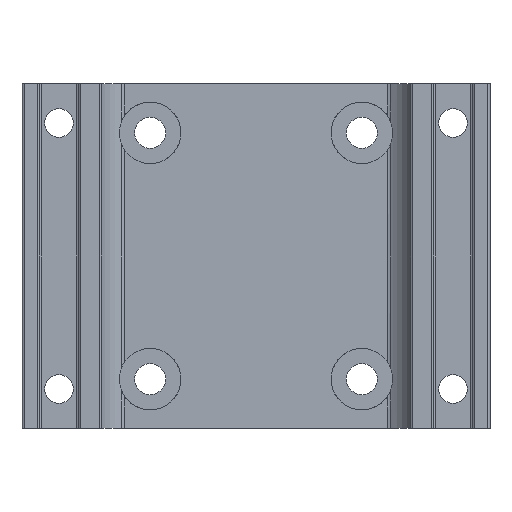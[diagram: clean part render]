
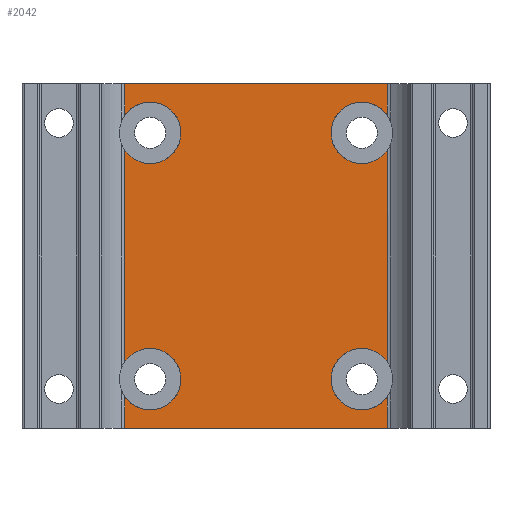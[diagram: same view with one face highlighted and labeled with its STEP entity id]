
A CAD part, front view. The second image highlights one B-rep face of the part: STEP entity #2042.
In plain terms, the highlighted planar face has unit normal (0, -1, 0).
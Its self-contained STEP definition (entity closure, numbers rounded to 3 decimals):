
#29 = VERTEX_POINT ( 'NONE', #1522 ) ;
#33 = ORIENTED_EDGE ( 'NONE', *, *, #1991, .T. ) ;
#43 = ORIENTED_EDGE ( 'NONE', *, *, #1650, .T. ) ;
#109 = DIRECTION ( 'NONE',  ( 0., 0., -1. ) ) ;
#278 = EDGE_CURVE ( 'NONE', #1222, #2292, #1214, .T. ) ;
#287 = VERTEX_POINT ( 'NONE', #1260 ) ;
#294 = LINE ( 'NONE', #2158, #1605 ) ;
#309 = CARTESIAN_POINT ( 'NONE',  ( -26.621, 4.7, -70. ) ) ;
#314 = CARTESIAN_POINT ( 'NONE',  ( 26.621, 4.7, -56.416 ) ) ;
#319 = VERTEX_POINT ( 'NONE', #1559 ) ;
#342 = VECTOR ( 'NONE', #1232, 1000. ) ;
#347 = EDGE_CURVE ( 'NONE', #2291, #2031, #1504, .T. ) ;
#411 = ORIENTED_EDGE ( 'NONE', *, *, #2293, .T. ) ;
#461 = DIRECTION ( 'NONE',  ( 1., 0., 0. ) ) ;
#500 = CIRCLE ( 'NONE', #2224, 6.25 ) ;
#506 = VECTOR ( 'NONE', #809, 1000. ) ;
#524 = CARTESIAN_POINT ( 'NONE',  ( -26.621, 4.7, 0. ) ) ;
#540 = DIRECTION ( 'NONE',  ( 0., 1., 0. ) ) ;
#545 = AXIS2_PLACEMENT_3D ( 'NONE', #640, #2058, #851 ) ;
#558 = EDGE_CURVE ( 'NONE', #1374, #1065, #1120, .T. ) ;
#559 = DIRECTION ( 'NONE',  ( 0., 1., 0. ) ) ;
#588 = DIRECTION ( 'NONE',  ( 1., 0., 0. ) ) ;
#618 = CARTESIAN_POINT ( 'NONE',  ( -26.621, 4.7, -70. ) ) ;
#620 = EDGE_CURVE ( 'NONE', #287, #694, #864, .T. ) ;
#640 = CARTESIAN_POINT ( 'NONE',  ( -21.5, 4.7, -60. ) ) ;
#644 = FACE_OUTER_BOUND ( 'NONE', #1446, .T. ) ;
#660 = CARTESIAN_POINT ( 'NONE',  ( 21.5, 4.7, -10. ) ) ;
#665 = ORIENTED_EDGE ( 'NONE', *, *, #1853, .T. ) ;
#694 = VERTEX_POINT ( 'NONE', #2301 ) ;
#704 = ORIENTED_EDGE ( 'NONE', *, *, #620, .T. ) ;
#716 = EDGE_CURVE ( 'NONE', #2191, #1216, #1211, .T. ) ;
#793 = EDGE_CURVE ( 'NONE', #1345, #1602, #2635, .T. ) ;
#795 = CARTESIAN_POINT ( 'NONE',  ( -21.5, 4.7, -60. ) ) ;
#806 = AXIS2_PLACEMENT_3D ( 'NONE', #1136, #2342, #928 ) ;
#809 = DIRECTION ( 'NONE',  ( 0., 0., 1. ) ) ;
#812 = CARTESIAN_POINT ( 'NONE',  ( -26.621, 4.7, -70. ) ) ;
#840 = EDGE_CURVE ( 'NONE', #694, #319, #1500, .T. ) ;
#851 = DIRECTION ( 'NONE',  ( 1., 0., 0. ) ) ;
#864 = CIRCLE ( 'NONE', #545, 6.25 ) ;
#880 = AXIS2_PLACEMENT_3D ( 'NONE', #1769, #540, #1964 ) ;
#881 = EDGE_CURVE ( 'NONE', #29, #2191, #1905, .T. ) ;
#882 = CARTESIAN_POINT ( 'NONE',  ( 27., 4.7, -70. ) ) ;
#886 = CARTESIAN_POINT ( 'NONE',  ( -26.621, 4.7, -13.584 ) ) ;
#928 = DIRECTION ( 'NONE',  ( 1., 0., 0. ) ) ;
#943 = PLANE ( 'NONE',  #1458 ) ;
#980 = CARTESIAN_POINT ( 'NONE',  ( 15.25, 4.7, -10. ) ) ;
#989 = ORIENTED_EDGE ( 'NONE', *, *, #793, .F. ) ;
#1029 = VERTEX_POINT ( 'NONE', #2376 ) ;
#1052 = CARTESIAN_POINT ( 'NONE',  ( 27., 4.7, 0. ) ) ;
#1065 = VERTEX_POINT ( 'NONE', #2369 ) ;
#1095 = VECTOR ( 'NONE', #2436, 1000. ) ;
#1097 = CIRCLE ( 'NONE', #1510, 6.25 ) ;
#1120 = LINE ( 'NONE', #2033, #506 ) ;
#1129 = ORIENTED_EDGE ( 'NONE', *, *, #278, .T. ) ;
#1136 = CARTESIAN_POINT ( 'NONE',  ( -21.5, 4.7, -10. ) ) ;
#1142 = DIRECTION ( 'NONE',  ( 0., -1., 0. ) ) ;
#1148 = DIRECTION ( 'NONE',  ( 1., 0., 0. ) ) ;
#1211 = CIRCLE ( 'NONE', #1911, 6.25 ) ;
#1212 = DIRECTION ( 'NONE',  ( 0., 1., 0. ) ) ;
#1214 = LINE ( 'NONE', #309, #2096 ) ;
#1216 = VERTEX_POINT ( 'NONE', #2303 ) ;
#1222 = VERTEX_POINT ( 'NONE', #886 ) ;
#1232 = DIRECTION ( 'NONE',  ( 0., 0., -1. ) ) ;
#1260 = CARTESIAN_POINT ( 'NONE',  ( -15.25, 4.7, -60. ) ) ;
#1272 = ORIENTED_EDGE ( 'NONE', *, *, #2170, .T. ) ;
#1295 = EDGE_CURVE ( 'NONE', #1029, #1662, #2088, .T. ) ;
#1345 = VERTEX_POINT ( 'NONE', #524 ) ;
#1355 = DIRECTION ( 'NONE',  ( 0., 1., 0. ) ) ;
#1374 = VERTEX_POINT ( 'NONE', #1929 ) ;
#1379 = VECTOR ( 'NONE', #2295, 1000. ) ;
#1446 = EDGE_LOOP ( 'NONE', ( #2608, #1272, #1726, #33, #1903, #2360, #1948, #989, #411, #2040, #665, #1129, #43, #704, #1749, #2189 ) ) ;
#1458 = AXIS2_PLACEMENT_3D ( 'NONE', #1936, #1142, #2563 ) ;
#1459 = AXIS2_PLACEMENT_3D ( 'NONE', #2630, #1212, #2427 ) ;
#1500 = LINE ( 'NONE', #618, #342 ) ;
#1504 = CIRCLE ( 'NONE', #880, 6.25 ) ;
#1510 = AXIS2_PLACEMENT_3D ( 'NONE', #2567, #1355, #1148 ) ;
#1522 = CARTESIAN_POINT ( 'NONE',  ( 26.621, 4.7, -13.584 ) ) ;
#1559 = CARTESIAN_POINT ( 'NONE',  ( -26.621, 4.7, -70. ) ) ;
#1602 = VERTEX_POINT ( 'NONE', #2049 ) ;
#1605 = VECTOR ( 'NONE', #2374, 1000. ) ;
#1633 = LINE ( 'NONE', #812, #1095 ) ;
#1650 = EDGE_CURVE ( 'NONE', #2292, #287, #500, .T. ) ;
#1662 = VERTEX_POINT ( 'NONE', #2201 ) ;
#1714 = CARTESIAN_POINT ( 'NONE',  ( 26.621, 4.7, 0. ) ) ;
#1726 = ORIENTED_EDGE ( 'NONE', *, *, #347, .T. ) ;
#1728 = DIRECTION ( 'NONE',  ( 0., 0., 1. ) ) ;
#1749 = ORIENTED_EDGE ( 'NONE', *, *, #840, .T. ) ;
#1769 = CARTESIAN_POINT ( 'NONE',  ( 21.5, 4.7, -60. ) ) ;
#1786 = CARTESIAN_POINT ( 'NONE',  ( 21.5, 4.7, -60. ) ) ;
#1853 = EDGE_CURVE ( 'NONE', #1662, #1222, #1097, .T. ) ;
#1855 = VECTOR ( 'NONE', #1728, 1000. ) ;
#1886 = DIRECTION ( 'NONE',  ( 0., 1., 0. ) ) ;
#1903 = ORIENTED_EDGE ( 'NONE', *, *, #881, .T. ) ;
#1905 = CIRCLE ( 'NONE', #1459, 6.25 ) ;
#1911 = AXIS2_PLACEMENT_3D ( 'NONE', #660, #1886, #461 ) ;
#1921 = LINE ( 'NONE', #882, #1379 ) ;
#1929 = CARTESIAN_POINT ( 'NONE',  ( 26.621, 4.7, -70. ) ) ;
#1936 = CARTESIAN_POINT ( 'NONE',  ( 27., 4.7, -70. ) ) ;
#1948 = ORIENTED_EDGE ( 'NONE', *, *, #2074, .T. ) ;
#1964 = DIRECTION ( 'NONE',  ( 1., 0., 0. ) ) ;
#1990 = DIRECTION ( 'NONE',  ( 1., 0., 0. ) ) ;
#1991 = EDGE_CURVE ( 'NONE', #2031, #29, #2399, .T. ) ;
#2017 = DIRECTION ( 'NONE',  ( 0., 1., 0. ) ) ;
#2031 = VERTEX_POINT ( 'NONE', #314 ) ;
#2033 = CARTESIAN_POINT ( 'NONE',  ( 26.621, 4.7, 0. ) ) ;
#2040 = ORIENTED_EDGE ( 'NONE', *, *, #1295, .T. ) ;
#2042 = ADVANCED_FACE ( 'NONE', ( #644 ), #943, .T. ) ;
#2049 = CARTESIAN_POINT ( 'NONE',  ( 26.621, 4.7, 0. ) ) ;
#2058 = DIRECTION ( 'NONE',  ( 0., 1., 0. ) ) ;
#2074 = EDGE_CURVE ( 'NONE', #1216, #1602, #294, .T. ) ;
#2088 = CIRCLE ( 'NONE', #806, 6.25 ) ;
#2096 = VECTOR ( 'NONE', #109, 1000. ) ;
#2158 = CARTESIAN_POINT ( 'NONE',  ( 26.621, 4.7, 0. ) ) ;
#2170 = EDGE_CURVE ( 'NONE', #1065, #2291, #2559, .T. ) ;
#2189 = ORIENTED_EDGE ( 'NONE', *, *, #2471, .T. ) ;
#2191 = VERTEX_POINT ( 'NONE', #980 ) ;
#2201 = CARTESIAN_POINT ( 'NONE',  ( -15.25, 4.7, -10. ) ) ;
#2213 = VECTOR ( 'NONE', #2472, 1000. ) ;
#2215 = CARTESIAN_POINT ( 'NONE',  ( 15.25, 4.7, -60. ) ) ;
#2224 = AXIS2_PLACEMENT_3D ( 'NONE', #795, #2017, #588 ) ;
#2231 = CARTESIAN_POINT ( 'NONE',  ( -26.621, 4.7, -56.416 ) ) ;
#2266 = AXIS2_PLACEMENT_3D ( 'NONE', #1786, #559, #1990 ) ;
#2291 = VERTEX_POINT ( 'NONE', #2215 ) ;
#2292 = VERTEX_POINT ( 'NONE', #2231 ) ;
#2293 = EDGE_CURVE ( 'NONE', #1345, #1029, #1633, .T. ) ;
#2295 = DIRECTION ( 'NONE',  ( 1., 0., 0. ) ) ;
#2301 = CARTESIAN_POINT ( 'NONE',  ( -26.621, 4.7, -63.584 ) ) ;
#2303 = CARTESIAN_POINT ( 'NONE',  ( 26.621, 4.7, -6.416 ) ) ;
#2342 = DIRECTION ( 'NONE',  ( 0., 1., 0. ) ) ;
#2360 = ORIENTED_EDGE ( 'NONE', *, *, #716, .T. ) ;
#2369 = CARTESIAN_POINT ( 'NONE',  ( 26.621, 4.7, -63.584 ) ) ;
#2374 = DIRECTION ( 'NONE',  ( 0., 0., 1. ) ) ;
#2376 = CARTESIAN_POINT ( 'NONE',  ( -26.621, 4.7, -6.416 ) ) ;
#2399 = LINE ( 'NONE', #1714, #1855 ) ;
#2427 = DIRECTION ( 'NONE',  ( 1., 0., 0. ) ) ;
#2436 = DIRECTION ( 'NONE',  ( 0., 0., -1. ) ) ;
#2471 = EDGE_CURVE ( 'NONE', #319, #1374, #1921, .T. ) ;
#2472 = DIRECTION ( 'NONE',  ( 1., 0., 0. ) ) ;
#2559 = CIRCLE ( 'NONE', #2266, 6.25 ) ;
#2563 = DIRECTION ( 'NONE',  ( 1., 0., 0. ) ) ;
#2567 = CARTESIAN_POINT ( 'NONE',  ( -21.5, 4.7, -10. ) ) ;
#2608 = ORIENTED_EDGE ( 'NONE', *, *, #558, .T. ) ;
#2630 = CARTESIAN_POINT ( 'NONE',  ( 21.5, 4.7, -10. ) ) ;
#2635 = LINE ( 'NONE', #1052, #2213 ) ;
